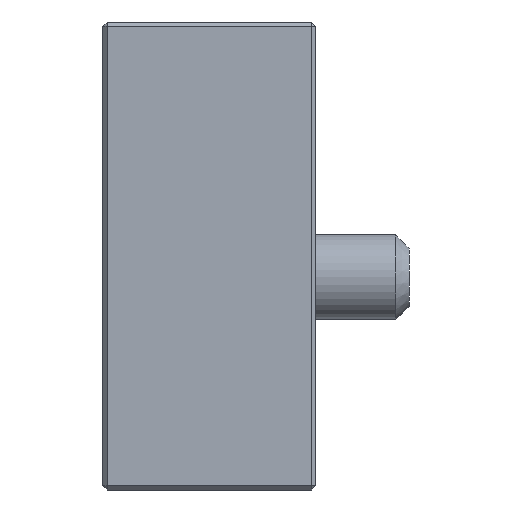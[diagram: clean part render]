
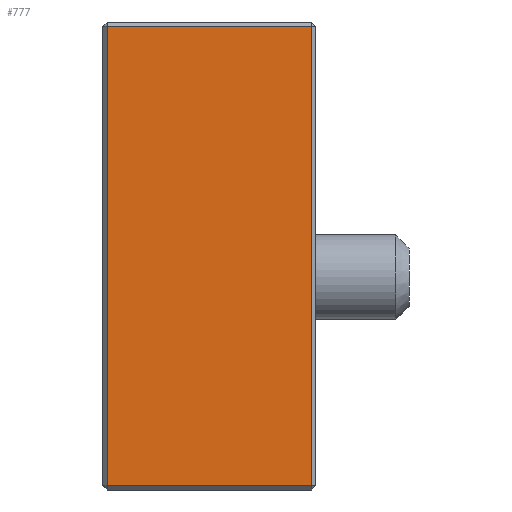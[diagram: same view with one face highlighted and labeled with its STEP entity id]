
A CAD part, left-side view. The second image highlights one B-rep face of the part: STEP entity #777.
In plain terms, the highlighted planar face has unit normal (-1, 0, 0).
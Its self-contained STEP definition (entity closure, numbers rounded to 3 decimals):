
#777=ADVANCED_FACE('',(#1691),#1693,.F.);
#1691=FACE_BOUND('',#1692,.T.);
#1692=EDGE_LOOP('',(#2306,#2307,#2308,#2309));
#1693=PLANE('',#1694);
#1694=AXIS2_PLACEMENT_3D('',#1695,#1696,#1697);
#1695=CARTESIAN_POINT('',(-80.,0.,0.));
#1696=DIRECTION('',(1.,0.,0.));
#1697=DIRECTION('',(0.,1.,0.));
#2306=ORIENTED_EDGE('',*,*,#2589,.F.);
#2307=ORIENTED_EDGE('',*,*,#2637,.F.);
#2308=ORIENTED_EDGE('',*,*,#2625,.F.);
#2309=ORIENTED_EDGE('',*,*,#2638,.F.);
#2589=EDGE_CURVE('',#2920,#2922,#2923,.T.);
#2625=EDGE_CURVE('',#2977,#2975,#2979,.T.);
#2637=EDGE_CURVE('',#2975,#2920,#2994,.T.);
#2638=EDGE_CURVE('',#2922,#2977,#2995,.T.);
#2920=VERTEX_POINT('',#3831);
#2922=VERTEX_POINT('',#3835);
#2923=LINE('',#3836,#3837);
#2975=VERTEX_POINT('',#3961);
#2977=VERTEX_POINT('',#3965);
#2979=LINE('',#3969,#3970);
#2994=LINE('',#4008,#4009);
#2995=LINE('',#4011,#4012);
#3831=CARTESIAN_POINT('',(-80.,-12.,29.5));
#3835=CARTESIAN_POINT('',(-80.,-12.,-24.5));
#3836=CARTESIAN_POINT('',(-80.,-12.,29.5));
#3837=VECTOR('',#3838,1.);
#3838=DIRECTION('',(0.,0.,-1.));
#3961=CARTESIAN_POINT('',(-80.,12.,29.5));
#3965=CARTESIAN_POINT('',(-80.,12.,-24.5));
#3969=CARTESIAN_POINT('',(-80.,12.,-24.5));
#3970=VECTOR('',#3971,1.);
#3971=DIRECTION('',(0.,0.,1.));
#4008=CARTESIAN_POINT('',(-80.,12.,29.5));
#4009=VECTOR('',#4010,1.);
#4010=DIRECTION('',(0.,-1.,0.));
#4011=CARTESIAN_POINT('',(-80.,-12.,-24.5));
#4012=VECTOR('',#4013,1.);
#4013=DIRECTION('',(0.,1.,0.));
